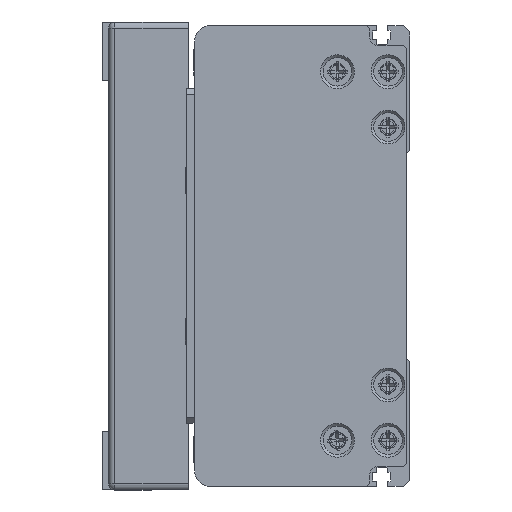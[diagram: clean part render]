
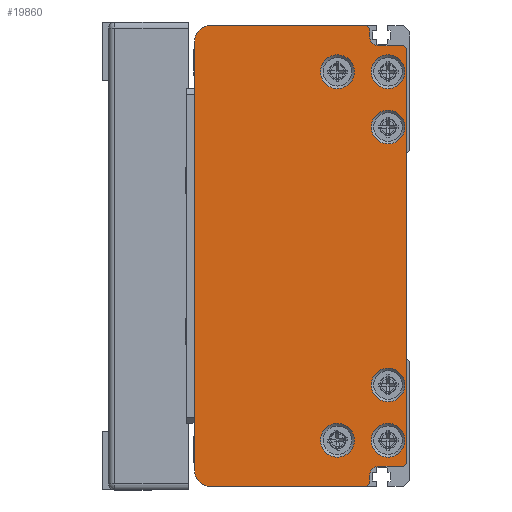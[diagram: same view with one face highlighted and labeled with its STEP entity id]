
A CAD part, left-side view. The second image highlights one B-rep face of the part: STEP entity #19860.
In plain terms, the highlighted planar face has unit normal (-1, 0, 0) as drawn and (0, 0, -1) by its records, which use the part's own axes.
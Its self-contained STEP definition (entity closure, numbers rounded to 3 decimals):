
#934=LINE('',#28722,#2599);
#935=LINE('',#28726,#2600);
#936=LINE('',#28728,#2601);
#937=LINE('',#28730,#2602);
#938=LINE('',#28734,#2603);
#939=LINE('',#28736,#2604);
#940=LINE('',#28738,#2605);
#941=LINE('',#28740,#2606);
#942=LINE('',#28742,#2607);
#943=LINE('',#28746,#2608);
#944=LINE('',#28748,#2609);
#945=LINE('',#28750,#2610);
#2599=VECTOR('',#23323,140.);
#2600=VECTOR('',#23326,51.);
#2601=VECTOR('',#23327,1.414);
#2602=VECTOR('',#23328,2.5);
#2603=VECTOR('',#23331,8.);
#2604=VECTOR('',#23332,1.414);
#2605=VECTOR('',#23333,135.);
#2606=VECTOR('',#23334,1.414);
#2607=VECTOR('',#23335,8.);
#2608=VECTOR('',#23338,2.5);
#2609=VECTOR('',#23339,1.414);
#2610=VECTOR('',#23340,51.);
#4217=PLANE('',#21226);
#4846=FACE_BOUND('',#6688,.T.);
#4847=FACE_BOUND('',#6689,.T.);
#4848=FACE_BOUND('',#6690,.T.);
#4849=FACE_BOUND('',#6691,.T.);
#4850=FACE_BOUND('',#6692,.T.);
#4851=FACE_BOUND('',#6693,.T.);
#5405=FACE_OUTER_BOUND('',#6687,.T.);
#6687=EDGE_LOOP('',(#13947,#13948,#13949,#13950,#13951,#13952,#13953,#13954,
#13955,#13956,#13957,#13958,#13959,#13960,#13961,#13962));
#6688=EDGE_LOOP('',(#13963));
#6689=EDGE_LOOP('',(#13964));
#6690=EDGE_LOOP('',(#13965));
#6691=EDGE_LOOP('',(#13966));
#6692=EDGE_LOOP('',(#13967));
#6693=EDGE_LOOP('',(#13968));
#8199=CIRCLE('',#21227,5.);
#8200=CIRCLE('',#21228,3.);
#8201=CIRCLE('',#21229,3.);
#8202=CIRCLE('',#21230,5.);
#8203=CIRCLE('',#21231,5.5);
#8204=CIRCLE('',#21232,5.5);
#8205=CIRCLE('',#21233,5.5);
#8206=CIRCLE('',#21234,5.5);
#8207=CIRCLE('',#21235,5.5);
#8208=CIRCLE('',#21236,5.5);
#8891=VERTEX_POINT('',#28720);
#8892=VERTEX_POINT('',#28721);
#8893=VERTEX_POINT('',#28723);
#8894=VERTEX_POINT('',#28725);
#8895=VERTEX_POINT('',#28727);
#8896=VERTEX_POINT('',#28729);
#8897=VERTEX_POINT('',#28731);
#8898=VERTEX_POINT('',#28733);
#8899=VERTEX_POINT('',#28735);
#8900=VERTEX_POINT('',#28737);
#8901=VERTEX_POINT('',#28739);
#8902=VERTEX_POINT('',#28741);
#8903=VERTEX_POINT('',#28743);
#8904=VERTEX_POINT('',#28745);
#8905=VERTEX_POINT('',#28747);
#8906=VERTEX_POINT('',#28749);
#8907=VERTEX_POINT('',#28752);
#8908=VERTEX_POINT('',#28754);
#8909=VERTEX_POINT('',#28756);
#8910=VERTEX_POINT('',#28758);
#8911=VERTEX_POINT('',#28760);
#8912=VERTEX_POINT('',#28762);
#10927=EDGE_CURVE('',#8891,#8892,#934,.T.);
#10928=EDGE_CURVE('',#8892,#8893,#8199,.T.);
#10929=EDGE_CURVE('',#8893,#8894,#935,.T.);
#10930=EDGE_CURVE('',#8894,#8895,#936,.T.);
#10931=EDGE_CURVE('',#8895,#8896,#937,.T.);
#10932=EDGE_CURVE('',#8896,#8897,#8200,.T.);
#10933=EDGE_CURVE('',#8897,#8898,#938,.T.);
#10934=EDGE_CURVE('',#8898,#8899,#939,.T.);
#10935=EDGE_CURVE('',#8899,#8900,#940,.T.);
#10936=EDGE_CURVE('',#8900,#8901,#941,.T.);
#10937=EDGE_CURVE('',#8901,#8902,#942,.T.);
#10938=EDGE_CURVE('',#8902,#8903,#8201,.T.);
#10939=EDGE_CURVE('',#8903,#8904,#943,.T.);
#10940=EDGE_CURVE('',#8904,#8905,#944,.T.);
#10941=EDGE_CURVE('',#8905,#8906,#945,.T.);
#10942=EDGE_CURVE('',#8906,#8891,#8202,.T.);
#10943=EDGE_CURVE('',#8907,#8907,#8203,.T.);
#10944=EDGE_CURVE('',#8908,#8908,#8204,.T.);
#10945=EDGE_CURVE('',#8909,#8909,#8205,.T.);
#10946=EDGE_CURVE('',#8910,#8910,#8206,.T.);
#10947=EDGE_CURVE('',#8911,#8911,#8207,.T.);
#10948=EDGE_CURVE('',#8912,#8912,#8208,.T.);
#13947=ORIENTED_EDGE('',*,*,#10927,.T.);
#13948=ORIENTED_EDGE('',*,*,#10928,.T.);
#13949=ORIENTED_EDGE('',*,*,#10929,.T.);
#13950=ORIENTED_EDGE('',*,*,#10930,.T.);
#13951=ORIENTED_EDGE('',*,*,#10931,.T.);
#13952=ORIENTED_EDGE('',*,*,#10932,.T.);
#13953=ORIENTED_EDGE('',*,*,#10933,.T.);
#13954=ORIENTED_EDGE('',*,*,#10934,.T.);
#13955=ORIENTED_EDGE('',*,*,#10935,.T.);
#13956=ORIENTED_EDGE('',*,*,#10936,.T.);
#13957=ORIENTED_EDGE('',*,*,#10937,.T.);
#13958=ORIENTED_EDGE('',*,*,#10938,.T.);
#13959=ORIENTED_EDGE('',*,*,#10939,.T.);
#13960=ORIENTED_EDGE('',*,*,#10940,.T.);
#13961=ORIENTED_EDGE('',*,*,#10941,.T.);
#13962=ORIENTED_EDGE('',*,*,#10942,.T.);
#13963=ORIENTED_EDGE('',*,*,#10943,.T.);
#13964=ORIENTED_EDGE('',*,*,#10944,.T.);
#13965=ORIENTED_EDGE('',*,*,#10945,.T.);
#13966=ORIENTED_EDGE('',*,*,#10946,.T.);
#13967=ORIENTED_EDGE('',*,*,#10947,.T.);
#13968=ORIENTED_EDGE('',*,*,#10948,.T.);
#19860=ADVANCED_FACE('',(#5405,#4846,#4847,#4848,#4849,#4850,#4851),#4217,
 .F.);
#21226=AXIS2_PLACEMENT_3D('',#28719,#23321,#23322);
#21227=AXIS2_PLACEMENT_3D('',#28724,#23324,#23325);
#21228=AXIS2_PLACEMENT_3D('',#28732,#23329,#23330);
#21229=AXIS2_PLACEMENT_3D('',#28744,#23336,#23337);
#21230=AXIS2_PLACEMENT_3D('',#28751,#23341,#23342);
#21231=AXIS2_PLACEMENT_3D('',#28753,#23343,#23344);
#21232=AXIS2_PLACEMENT_3D('',#28755,#23345,#23346);
#21233=AXIS2_PLACEMENT_3D('',#28757,#23347,#23348);
#21234=AXIS2_PLACEMENT_3D('',#28759,#23349,#23350);
#21235=AXIS2_PLACEMENT_3D('',#28761,#23351,#23352);
#21236=AXIS2_PLACEMENT_3D('',#28763,#23353,#23354);
#23321=DIRECTION('center_axis',(0.,0.,
1.));
#23322=DIRECTION('ref_axis',(1.,0.,0.));
#23323=DIRECTION('',(1.,0.,0.));
#23324=DIRECTION('center_axis',(0.,0.,
-1.));
#23325=DIRECTION('ref_axis',(-1.,0.,0.));
#23326=DIRECTION('',(0.,-1.,0.));
#23327=DIRECTION('',(-0.707,-0.707,0.));
#23328=DIRECTION('',(-1.,0.,0.));
#23329=DIRECTION('center_axis',(0.,0.,
1.));
#23330=DIRECTION('ref_axis',(0.,1.,0.));
#23331=DIRECTION('',(0.,-1.,0.));
#23332=DIRECTION('',(-0.707,-0.707,0.));
#23333=DIRECTION('',(-1.,0.,0.));
#23334=DIRECTION('',(-0.707,0.707,0.));
#23335=DIRECTION('',(0.,1.,0.));
#23336=DIRECTION('center_axis',(0.,0.,
1.));
#23337=DIRECTION('ref_axis',(1.,0.,0.));
#23338=DIRECTION('',(-1.,0.,0.));
#23339=DIRECTION('',(-0.707,0.707,0.));
#23340=DIRECTION('',(0.,1.,0.));
#23341=DIRECTION('center_axis',(0.,0.,
-1.));
#23342=DIRECTION('ref_axis',(0.,-1.,0.));
#23343=DIRECTION('center_axis',(0.,0.,
1.));
#23344=DIRECTION('ref_axis',(-1.,0.,0.));
#23345=DIRECTION('center_axis',(0.,0.,
1.));
#23346=DIRECTION('ref_axis',(-1.,0.,0.));
#23347=DIRECTION('center_axis',(0.,0.,
1.));
#23348=DIRECTION('ref_axis',(-1.,0.,0.));
#23349=DIRECTION('center_axis',(0.,0.,
1.));
#23350=DIRECTION('ref_axis',(-1.,0.,0.));
#23351=DIRECTION('center_axis',(0.,0.,
1.));
#23352=DIRECTION('ref_axis',(-1.,0.,0.));
#23353=DIRECTION('center_axis',(0.,0.,
1.));
#23354=DIRECTION('ref_axis',(-1.,0.,0.));
#28719=CARTESIAN_POINT('Origin',(0.25,38.047,-1219.));
#28720=CARTESIAN_POINT('',(-69.75,72.25,-1219.));
#28721=CARTESIAN_POINT('',(70.25,72.25,-1219.));
#28722=CARTESIAN_POINT('',(-69.75,72.25,-1219.));
#28723=CARTESIAN_POINT('',(75.25,67.25,-1219.));
#28724=CARTESIAN_POINT('Origin',(70.25,67.25,-1219.));
#28725=CARTESIAN_POINT('',(75.25,16.25,-1219.));
#28726=CARTESIAN_POINT('',(75.25,67.25,-1219.));
#28727=CARTESIAN_POINT('',(74.25,15.25,-1219.));
#28728=CARTESIAN_POINT('',(75.25,16.25,-1219.));
#28729=CARTESIAN_POINT('',(71.75,15.25,-1219.));
#28730=CARTESIAN_POINT('',(74.25,15.25,-1219.));
#28731=CARTESIAN_POINT('',(68.75,12.25,-1219.));
#28732=CARTESIAN_POINT('Origin',(71.75,12.25,-1219.));
#28733=CARTESIAN_POINT('',(68.75,4.25,-1219.));
#28734=CARTESIAN_POINT('',(68.75,12.25,-1219.));
#28735=CARTESIAN_POINT('',(67.75,3.25,-1219.));
#28736=CARTESIAN_POINT('',(68.75,4.25,-1219.));
#28737=CARTESIAN_POINT('',(-67.25,3.25,-1219.));
#28738=CARTESIAN_POINT('',(67.75,3.25,-1219.));
#28739=CARTESIAN_POINT('',(-68.25,4.25,-1219.));
#28740=CARTESIAN_POINT('',(-67.25,3.25,-1219.));
#28741=CARTESIAN_POINT('',(-68.25,12.25,-1219.));
#28742=CARTESIAN_POINT('',(-68.25,4.25,-1219.));
#28743=CARTESIAN_POINT('',(-71.25,15.25,-1219.));
#28744=CARTESIAN_POINT('Origin',(-71.25,12.25,-1219.));
#28745=CARTESIAN_POINT('',(-73.75,15.25,-1219.));
#28746=CARTESIAN_POINT('',(-71.25,15.25,-1219.));
#28747=CARTESIAN_POINT('',(-74.75,16.25,-1219.));
#28748=CARTESIAN_POINT('',(-73.75,15.25,-1219.));
#28749=CARTESIAN_POINT('',(-74.75,67.25,-1219.));
#28750=CARTESIAN_POINT('',(-74.75,16.25,-1219.));
#28751=CARTESIAN_POINT('Origin',(-69.75,67.25,-1219.));
#28752=CARTESIAN_POINT('',(-47.25,9.25,-1219.));
#28753=CARTESIAN_POINT('Origin',(-41.75,9.25,-1219.));
#28754=CARTESIAN_POINT('',(36.75,9.25,-1219.));
#28755=CARTESIAN_POINT('Origin',(42.25,9.25,-1219.));
#28756=CARTESIAN_POINT('',(-65.25,25.75,-1219.));
#28757=CARTESIAN_POINT('Origin',(-59.75,25.75,-1219.));
#28758=CARTESIAN_POINT('',(54.75,25.75,-1219.));
#28759=CARTESIAN_POINT('Origin',(60.25,25.75,-1219.));
#28760=CARTESIAN_POINT('',(-65.25,9.25,-1219.));
#28761=CARTESIAN_POINT('Origin',(-59.75,9.25,-1219.));
#28762=CARTESIAN_POINT('',(54.75,9.25,-1219.));
#28763=CARTESIAN_POINT('Origin',(60.25,9.25,-1219.));
